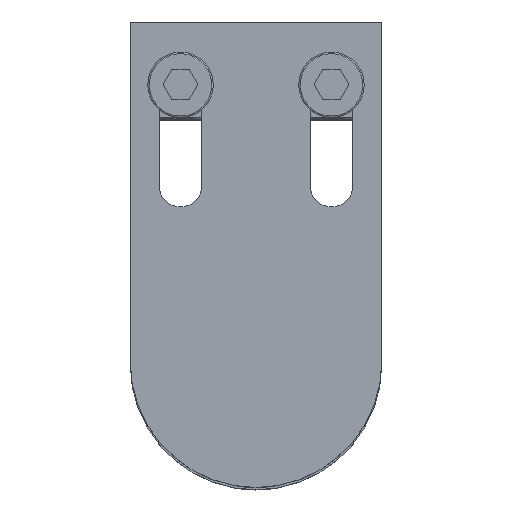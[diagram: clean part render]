
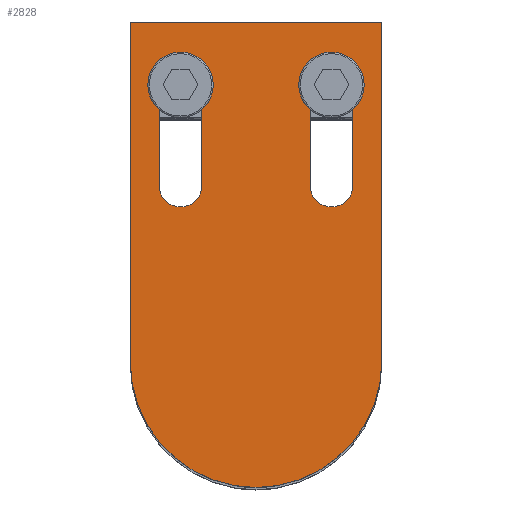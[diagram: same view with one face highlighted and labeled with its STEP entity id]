
A CAD part, top view. The second image highlights one B-rep face of the part: STEP entity #2828.
In plain terms, the highlighted planar face has unit normal (0, 0, 1) as drawn and (0, 0, -1) by its records, which use the part's own axes.
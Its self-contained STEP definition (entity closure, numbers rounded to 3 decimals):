
#51 = VERTEX_POINT ( 'NONE', #2012 ) ;
#61 = VECTOR ( 'NONE', #2225, 1000. ) ;
#73 = VERTEX_POINT ( 'NONE', #440 ) ;
#161 = EDGE_CURVE ( 'NONE', #3957, #4529, #1178, .T. ) ;
#182 = DIRECTION ( 'NONE',  ( 0., 0., 1. ) ) ;
#191 = CARTESIAN_POINT ( 'NONE',  ( 10.75, 35., -6. ) ) ;
#238 = VERTEX_POINT ( 'NONE', #3512 ) ;
#304 = ORIENTED_EDGE ( 'NONE', *, *, #2717, .F. ) ;
#440 = CARTESIAN_POINT ( 'NONE',  ( 25., 67.5, -6. ) ) ;
#487 = FACE_BOUND ( 'NONE', #2910, .T. ) ;
#570 = DIRECTION ( 'NONE',  ( 0., 0., 1. ) ) ;
#605 = EDGE_CURVE ( 'NONE', #1325, #238, #1121, .T. ) ;
#644 = AXIS2_PLACEMENT_3D ( 'NONE', #2765, #3547, #3516 ) ;
#687 = EDGE_CURVE ( 'NONE', #1525, #73, #1564, .T. ) ;
#696 = DIRECTION ( 'NONE',  ( -1., 0., 0. ) ) ;
#700 = LINE ( 'NONE', #5159, #1021 ) ;
#720 = AXIS2_PLACEMENT_3D ( 'NONE', #3637, #3604, #2024 ) ;
#753 = CARTESIAN_POINT ( 'NONE',  ( 25., 0., -6. ) ) ;
#764 = CIRCLE ( 'NONE', #720, 4.25 ) ;
#992 = AXIS2_PLACEMENT_3D ( 'NONE', #2636, #4660, #4200 ) ;
#1021 = VECTOR ( 'NONE', #696, 1000. ) ;
#1105 = CARTESIAN_POINT ( 'NONE',  ( 10.75, 35., -6. ) ) ;
#1121 = CIRCLE ( 'NONE', #1609, 4.25 ) ;
#1126 = ORIENTED_EDGE ( 'NONE', *, *, #161, .T. ) ;
#1178 = LINE ( 'NONE', #1433, #61 ) ;
#1258 = CARTESIAN_POINT ( 'NONE',  ( -25., 0., -6. ) ) ;
#1277 = AXIS2_PLACEMENT_3D ( 'NONE', #4214, #182, #3428 ) ;
#1286 = VERTEX_POINT ( 'NONE', #5019 ) ;
#1325 = VERTEX_POINT ( 'NONE', #2628 ) ;
#1383 = CARTESIAN_POINT ( 'NONE',  ( -25., 0., -6. ) ) ;
#1405 = VECTOR ( 'NONE', #5025, 1000. ) ;
#1433 = CARTESIAN_POINT ( 'NONE',  ( 19.25, 35., -6. ) ) ;
#1440 = ORIENTED_EDGE ( 'NONE', *, *, #3918, .T. ) ;
#1474 = VERTEX_POINT ( 'NONE', #191 ) ;
#1525 = VERTEX_POINT ( 'NONE', #753 ) ;
#1543 = VECTOR ( 'NONE', #3877, 1000. ) ;
#1564 = LINE ( 'NONE', #5099, #2966 ) ;
#1609 = AXIS2_PLACEMENT_3D ( 'NONE', #4249, #3885, #1796 ) ;
#1796 = DIRECTION ( 'NONE',  ( 1., 0., 0. ) ) ;
#1813 = ORIENTED_EDGE ( 'NONE', *, *, #2692, .T. ) ;
#1899 = ORIENTED_EDGE ( 'NONE', *, *, #2285, .T. ) ;
#2012 = CARTESIAN_POINT ( 'NONE',  ( -25., 67.5, -6. ) ) ;
#2024 = DIRECTION ( 'NONE',  ( 1., 0., 0. ) ) ;
#2028 = EDGE_CURVE ( 'NONE', #51, #5100, #2116, .T. ) ;
#2034 = EDGE_CURVE ( 'NONE', #1286, #1325, #4008, .T. ) ;
#2097 = CARTESIAN_POINT ( 'NONE',  ( -19.25, 35., -6. ) ) ;
#2116 = LINE ( 'NONE', #1383, #2381 ) ;
#2172 = VECTOR ( 'NONE', #2359, 1000. ) ;
#2188 = EDGE_CURVE ( 'NONE', #73, #51, #700, .T. ) ;
#2225 = DIRECTION ( 'NONE',  ( 0., 1., 0. ) ) ;
#2285 = EDGE_CURVE ( 'NONE', #4094, #1286, #764, .T. ) ;
#2313 = CIRCLE ( 'NONE', #992, 4.25 ) ;
#2359 = DIRECTION ( 'NONE',  ( 0., -1., 0. ) ) ;
#2374 = FACE_OUTER_BOUND ( 'NONE', #4168, .T. ) ;
#2379 = ORIENTED_EDGE ( 'NONE', *, *, #2188, .F. ) ;
#2381 = VECTOR ( 'NONE', #3849, 1000. ) ;
#2435 = CARTESIAN_POINT ( 'NONE',  ( 19.25, 35., -6. ) ) ;
#2440 = CIRCLE ( 'NONE', #3887, 4.25 ) ;
#2626 = LINE ( 'NONE', #2646, #1405 ) ;
#2628 = CARTESIAN_POINT ( 'NONE',  ( -10.75, 55., -6. ) ) ;
#2636 = CARTESIAN_POINT ( 'NONE',  ( 15., 35., -6. ) ) ;
#2646 = CARTESIAN_POINT ( 'NONE',  ( -19.25, 35., -6. ) ) ;
#2692 = EDGE_CURVE ( 'NONE', #238, #4094, #2626, .T. ) ;
#2717 = EDGE_CURVE ( 'NONE', #5100, #1525, #4476, .T. ) ;
#2723 = EDGE_CURVE ( 'NONE', #1474, #3957, #2313, .T. ) ;
#2765 = CARTESIAN_POINT ( 'NONE',  ( 0., 0., -6. ) ) ;
#2828 = ADVANCED_FACE ( 'NONE', ( #487, #3129, #2374 ), #3105, .F. ) ;
#2910 = EDGE_LOOP ( 'NONE', ( #1440, #3014, #1126, #4988 ) ) ;
#2948 = CARTESIAN_POINT ( 'NONE',  ( 19.25, 55., -6. ) ) ;
#2966 = VECTOR ( 'NONE', #4766, 1000. ) ;
#3014 = ORIENTED_EDGE ( 'NONE', *, *, #2723, .T. ) ;
#3105 = PLANE ( 'NONE',  #644 ) ;
#3129 = FACE_BOUND ( 'NONE', #4807, .T. ) ;
#3347 = ORIENTED_EDGE ( 'NONE', *, *, #2028, .F. ) ;
#3428 = DIRECTION ( 'NONE',  ( 1., 0., 0. ) ) ;
#3457 = CARTESIAN_POINT ( 'NONE',  ( 15., 55., -6. ) ) ;
#3463 = EDGE_CURVE ( 'NONE', #4529, #4410, #2440, .T. ) ;
#3512 = CARTESIAN_POINT ( 'NONE',  ( -19.25, 55., -6. ) ) ;
#3516 = DIRECTION ( 'NONE',  ( 1., 0., 0. ) ) ;
#3542 = CARTESIAN_POINT ( 'NONE',  ( 10.75, 55., -6. ) ) ;
#3547 = DIRECTION ( 'NONE',  ( 0., 0., 1. ) ) ;
#3604 = DIRECTION ( 'NONE',  ( 0., 0., 1. ) ) ;
#3637 = CARTESIAN_POINT ( 'NONE',  ( -15., 35., -6. ) ) ;
#3735 = LINE ( 'NONE', #1105, #2172 ) ;
#3801 = CARTESIAN_POINT ( 'NONE',  ( -10.75, 35., -6. ) ) ;
#3804 = ORIENTED_EDGE ( 'NONE', *, *, #2034, .T. ) ;
#3827 = DIRECTION ( 'NONE',  ( -1., 0., 0. ) ) ;
#3849 = DIRECTION ( 'NONE',  ( 0., -1., 0. ) ) ;
#3877 = DIRECTION ( 'NONE',  ( 0., 1., 0. ) ) ;
#3885 = DIRECTION ( 'NONE',  ( 0., 0., 1. ) ) ;
#3887 = AXIS2_PLACEMENT_3D ( 'NONE', #3457, #570, #3827 ) ;
#3918 = EDGE_CURVE ( 'NONE', #4410, #1474, #3735, .T. ) ;
#3957 = VERTEX_POINT ( 'NONE', #2435 ) ;
#4008 = LINE ( 'NONE', #3801, #1543 ) ;
#4094 = VERTEX_POINT ( 'NONE', #2097 ) ;
#4168 = EDGE_LOOP ( 'NONE', ( #304, #3347, #2379, #4758 ) ) ;
#4200 = DIRECTION ( 'NONE',  ( -1., 0., 0. ) ) ;
#4214 = CARTESIAN_POINT ( 'NONE',  ( 0., 0., -6. ) ) ;
#4249 = CARTESIAN_POINT ( 'NONE',  ( -15., 55., -6. ) ) ;
#4385 = ORIENTED_EDGE ( 'NONE', *, *, #605, .T. ) ;
#4410 = VERTEX_POINT ( 'NONE', #3542 ) ;
#4476 = CIRCLE ( 'NONE', #1277, 25. ) ;
#4529 = VERTEX_POINT ( 'NONE', #2948 ) ;
#4660 = DIRECTION ( 'NONE',  ( 0., 0., 1. ) ) ;
#4758 = ORIENTED_EDGE ( 'NONE', *, *, #687, .F. ) ;
#4766 = DIRECTION ( 'NONE',  ( 0., 1., 0. ) ) ;
#4807 = EDGE_LOOP ( 'NONE', ( #1813, #1899, #3804, #4385 ) ) ;
#4988 = ORIENTED_EDGE ( 'NONE', *, *, #3463, .T. ) ;
#5019 = CARTESIAN_POINT ( 'NONE',  ( -10.75, 35., -6. ) ) ;
#5025 = DIRECTION ( 'NONE',  ( 0., -1., 0. ) ) ;
#5099 = CARTESIAN_POINT ( 'NONE',  ( 25., 0., -6. ) ) ;
#5100 = VERTEX_POINT ( 'NONE', #1258 ) ;
#5159 = CARTESIAN_POINT ( 'NONE',  ( 25., 67.5, -6. ) ) ;
